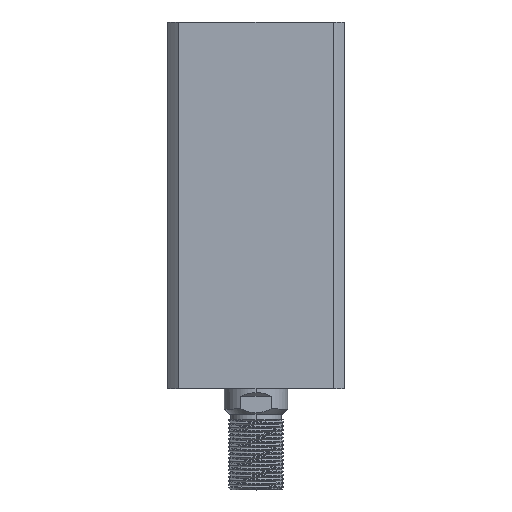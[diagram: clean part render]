
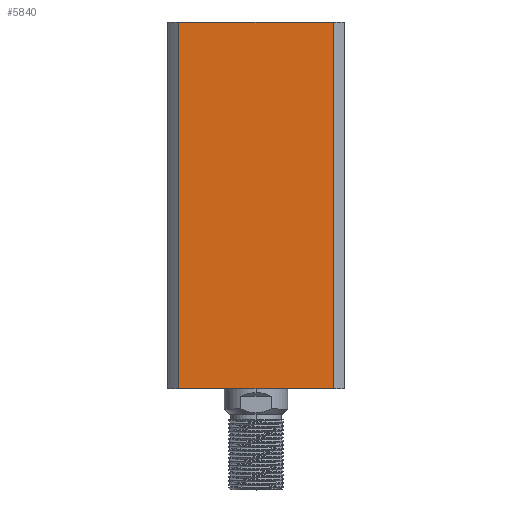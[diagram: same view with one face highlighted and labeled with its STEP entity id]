
A CAD part, top view. The second image highlights one B-rep face of the part: STEP entity #5840.
In plain terms, the highlighted planar face has unit normal (0, 0, 1) as drawn and (1, 0, 0) by its records, which use the part's own axes.
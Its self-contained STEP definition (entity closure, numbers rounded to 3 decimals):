
#123 = ORIENTED_EDGE ( 'NONE', *, *, #11078, .F. ) ;
#417 = DIRECTION ( 'NONE',  ( -1., 0., 0. ) ) ;
#435 = VERTEX_POINT ( 'NONE', #12074 ) ;
#875 = CARTESIAN_POINT ( 'NONE',  ( 35., 30.615, 145. ) ) ;
#1689 = CARTESIAN_POINT ( 'NONE',  ( 35., -30.615, 0. ) ) ;
#2193 = LINE ( 'NONE', #10042, #7768 ) ;
#2222 = ORIENTED_EDGE ( 'NONE', *, *, #3612, .F. ) ;
#2655 = DIRECTION ( 'NONE',  ( 0., 0., -1. ) ) ;
#2731 = DIRECTION ( 'NONE',  ( 0., 1., 0. ) ) ;
#2782 = EDGE_CURVE ( 'NONE', #10100, #10739, #2193, .T. ) ;
#3551 = PLANE ( 'NONE',  #8477 ) ;
#3612 = EDGE_CURVE ( 'NONE', #435, #6585, #11213, .T. ) ;
#3837 = LINE ( 'NONE', #12992, #11871 ) ;
#4091 = EDGE_LOOP ( 'NONE', ( #5615, #2222, #123, #10778 ) ) ;
#4423 = CARTESIAN_POINT ( 'NONE',  ( 35., 35., 145. ) ) ;
#5615 = ORIENTED_EDGE ( 'NONE', *, *, #10521, .F. ) ;
#5840 = ADVANCED_FACE ( 'NONE', ( #13289 ), #3551, .F. ) ;
#6585 = VERTEX_POINT ( 'NONE', #875 ) ;
#6689 = DIRECTION ( 'NONE',  ( 0., 0., 1. ) ) ;
#7547 = DIRECTION ( 'NONE',  ( 0., 1., 0. ) ) ;
#7740 = DIRECTION ( 'NONE',  ( 0., 0., 1. ) ) ;
#7768 = VECTOR ( 'NONE', #2731, 1000. ) ;
#8250 = VECTOR ( 'NONE', #2655, 1000. ) ;
#8408 = VECTOR ( 'NONE', #7547, 1000. ) ;
#8477 = AXIS2_PLACEMENT_3D ( 'NONE', #11931, #417, #7740 ) ;
#8576 = LINE ( 'NONE', #11028, #8250 ) ;
#9446 = CARTESIAN_POINT ( 'NONE',  ( 35., 30.615, 0. ) ) ;
#10042 = CARTESIAN_POINT ( 'NONE',  ( 35., 35., 0. ) ) ;
#10100 = VERTEX_POINT ( 'NONE', #1689 ) ;
#10521 = EDGE_CURVE ( 'NONE', #6585, #10739, #8576, .T. ) ;
#10739 = VERTEX_POINT ( 'NONE', #9446 ) ;
#10778 = ORIENTED_EDGE ( 'NONE', *, *, #2782, .T. ) ;
#11028 = CARTESIAN_POINT ( 'NONE',  ( 35., 30.615, 300. ) ) ;
#11078 = EDGE_CURVE ( 'NONE', #10100, #435, #3837, .T. ) ;
#11213 = LINE ( 'NONE', #4423, #8408 ) ;
#11871 = VECTOR ( 'NONE', #6689, 1000. ) ;
#11931 = CARTESIAN_POINT ( 'NONE',  ( 35., 35., 145. ) ) ;
#12074 = CARTESIAN_POINT ( 'NONE',  ( 35., -30.615, 145. ) ) ;
#12992 = CARTESIAN_POINT ( 'NONE',  ( 35., -30.615, 300. ) ) ;
#13289 = FACE_OUTER_BOUND ( 'NONE', #4091, .T. ) ;
